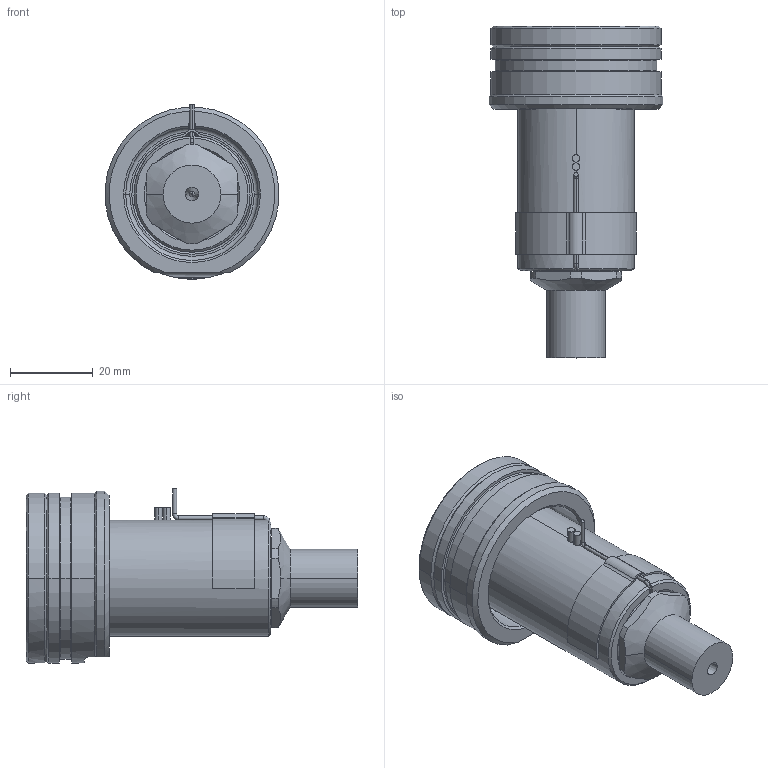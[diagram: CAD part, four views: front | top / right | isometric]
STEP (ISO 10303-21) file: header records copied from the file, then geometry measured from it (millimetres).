
FILE_DESCRIPTION((''),'2;1');
FILE_NAME('EO10_PG-FBE_WR_050_SW','2024-02-19T11:59:18',('sundharh'),(''),'CREO PARAMETRIC BY PTC INC, 2023154','CREO PARAMETRIC BY PTC INC, 2023154','');
FILE_SCHEMA(('CONFIG_CONTROL_DESIGN'));
Length unit declared in the file: millimetre
Products named in the file (1): EO10_PG-FBE_WR_050_SW
Bounding box: 41.85 x 80 x 42.02 mm (x, y, z)
Volume: 47661.6 mm3; surface area: 15872.7 mm2
Topology: 1 solids, 1 shells, 203 faces, 548 edges, 340 vertices
Faces by surface type: cylinder 80, plane 59, cone 41, torus 17, bspline 3, sphere 3
Entity records: 7378 total; most frequent: CARTESIAN_POINT 2168, DIRECTION 1138, ORIENTED_EDGE 1088, EDGE_CURVE 544, AXIS2_PLACEMENT_3D 474, VERTEX_POINT 340, CIRCLE 274, EDGE_LOOP 220
